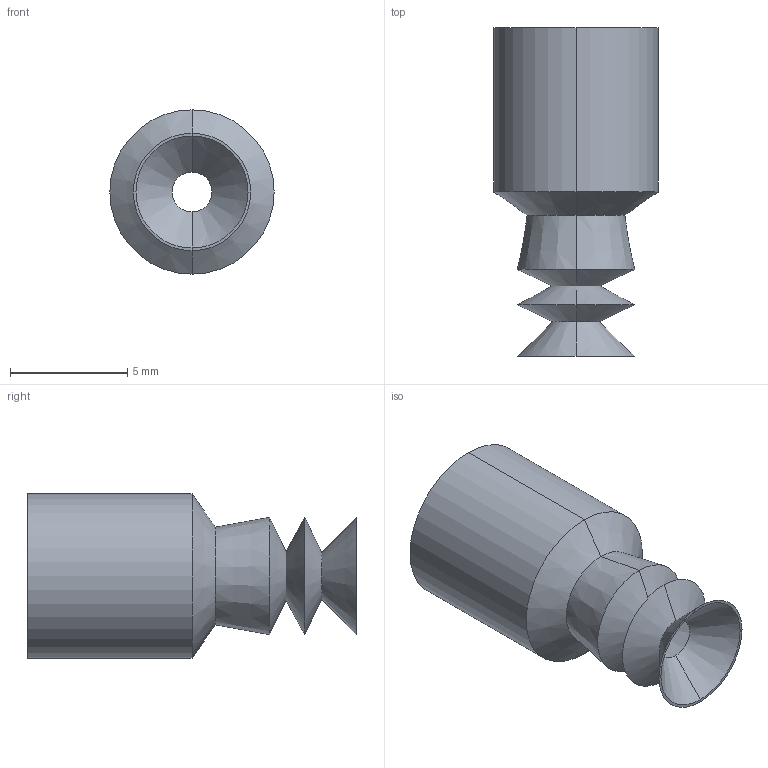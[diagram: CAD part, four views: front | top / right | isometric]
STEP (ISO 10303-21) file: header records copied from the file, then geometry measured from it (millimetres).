
FILE_DESCRIPTION (( 'STEP AP214' ), '1' );
FILE_NAME ('VSR3-S5.STEP', '2019-11-18T09:35:08', ( '微软用户' ), ( '微软中国' ), 'SwSTEP 2.0', 'SolidWorks 2016', '' );
FILE_SCHEMA (( 'AUTOMOTIVE_DESIGN' ));
Length unit declared in the file: millimetre
Products named in the file (1): VSR3-S5
Bounding box: 7 x 14 x 7 mm (x, y, z)
Volume: 202.5 mm3; surface area: 528.7 mm2
Topology: 1 solids, 1 shells, 28 faces, 56 edges, 30 vertices
Faces by surface type: cone 22, cylinder 4, plane 2
Entity records: 752 total; most frequent: DIRECTION 144, CARTESIAN_POINT 115, ORIENTED_EDGE 112, AXIS2_PLACEMENT_3D 59, EDGE_CURVE 56, CIRCLE 30, EDGE_LOOP 30, VERTEX_POINT 30
